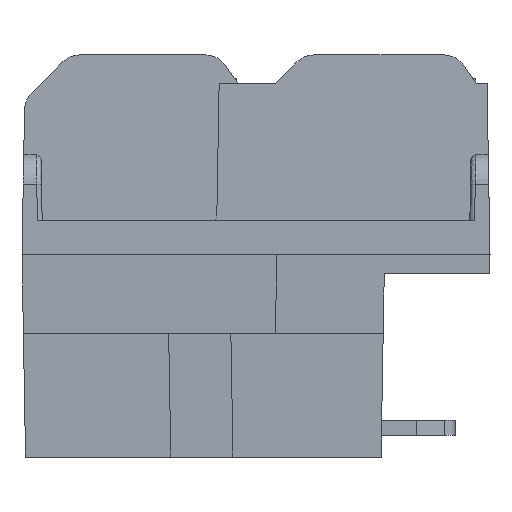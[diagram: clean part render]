
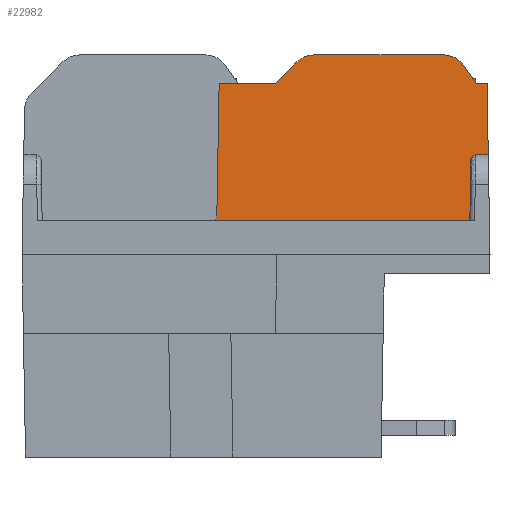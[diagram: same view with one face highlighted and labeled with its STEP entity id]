
A CAD part, left-side view. The second image highlights one B-rep face of the part: STEP entity #22982.
In plain terms, the highlighted planar face has unit normal (-1, 0, 0.018).
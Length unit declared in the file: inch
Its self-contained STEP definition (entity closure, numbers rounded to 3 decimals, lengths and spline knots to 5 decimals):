
#930=ELLIPSE('',#24409,0.01,0.01);
#937=ELLIPSE('',#24422,0.01,0.01);
#938=ELLIPSE('',#24423,0.05001,0.05);
#939=ELLIPSE('',#24424,0.05001,0.05);
#1362=FACE_OUTER_BOUND('',#2631,.T.);
#2631=EDGE_LOOP('',(#16469,#16470,#16471,#16472,#16473,#16474,#16475,#16476,
#16477,#16478,#16479,#16480,#16481,#16482));
#3748=LINE('',#31644,#6574);
#3845=LINE('',#31861,#6671);
#4369=LINE('',#32898,#7195);
#4590=LINE('',#33607,#7416);
#4601=LINE('',#33642,#7427);
#4602=LINE('',#33645,#7428);
#4603=LINE('',#33648,#7429);
#4604=LINE('',#33650,#7430);
#4605=LINE('',#33654,#7431);
#4606=LINE('',#33657,#7432);
#6574=VECTOR('',#25769,0.3937);
#6671=VECTOR('',#25896,0.3937);
#7195=VECTOR('',#26714,0.3937);
#7416=VECTOR('',#27081,0.3937);
#7427=VECTOR('',#27112,0.3937);
#7428=VECTOR('',#27115,0.3937);
#7429=VECTOR('',#27118,0.3937);
#7430=VECTOR('',#27119,0.3937);
#7431=VECTOR('',#27122,0.3937);
#7432=VECTOR('',#27125,0.3937);
#9394=VERTEX_POINT('',#31641);
#9395=VERTEX_POINT('',#31643);
#9487=VERTEX_POINT('',#31859);
#9852=VERTEX_POINT('',#32895);
#9853=VERTEX_POINT('',#32897);
#10025=VERTEX_POINT('',#33600);
#10026=VERTEX_POINT('',#33602);
#10027=VERTEX_POINT('',#33606);
#10042=VERTEX_POINT('',#33644);
#10043=VERTEX_POINT('',#33646);
#10044=VERTEX_POINT('',#33649);
#10045=VERTEX_POINT('',#33651);
#10046=VERTEX_POINT('',#33653);
#10047=VERTEX_POINT('',#33655);
#11616=EDGE_CURVE('',#9394,#9395,#3748,.T.);
#11718=EDGE_CURVE('',#9487,#9394,#3845,.T.);
#12244=EDGE_CURVE('',#9852,#9853,#4369,.T.);
#12501=EDGE_CURVE('',#10025,#10026,#930,.T.);
#12503=EDGE_CURVE('',#10027,#10025,#4590,.T.);
#12522=EDGE_CURVE('',#9852,#10026,#4601,.T.);
#12523=EDGE_CURVE('',#10042,#10027,#4602,.F.);
#12524=EDGE_CURVE('',#10043,#10042,#937,.F.);
#12525=EDGE_CURVE('',#9395,#10043,#4603,.F.);
#12526=EDGE_CURVE('',#10044,#9487,#4604,.T.);
#12527=EDGE_CURVE('',#10045,#10044,#938,.T.);
#12528=EDGE_CURVE('',#10046,#10045,#4605,.T.);
#12529=EDGE_CURVE('',#10047,#10046,#939,.T.);
#12530=EDGE_CURVE('',#9853,#10047,#4606,.T.);
#16469=ORIENTED_EDGE('',*,*,#12522,.T.);
#16470=ORIENTED_EDGE('',*,*,#12501,.F.);
#16471=ORIENTED_EDGE('',*,*,#12503,.F.);
#16472=ORIENTED_EDGE('',*,*,#12523,.F.);
#16473=ORIENTED_EDGE('',*,*,#12524,.F.);
#16474=ORIENTED_EDGE('',*,*,#12525,.F.);
#16475=ORIENTED_EDGE('',*,*,#11616,.F.);
#16476=ORIENTED_EDGE('',*,*,#11718,.F.);
#16477=ORIENTED_EDGE('',*,*,#12526,.F.);
#16478=ORIENTED_EDGE('',*,*,#12527,.F.);
#16479=ORIENTED_EDGE('',*,*,#12528,.F.);
#16480=ORIENTED_EDGE('',*,*,#12529,.F.);
#16481=ORIENTED_EDGE('',*,*,#12530,.F.);
#16482=ORIENTED_EDGE('',*,*,#12244,.F.);
#21997=PLANE('',#24421);
#22982=ADVANCED_FACE('',(#1362),#21997,.F.);
#24409=AXIS2_PLACEMENT_3D('',#33603,#27076,#27077);
#24421=AXIS2_PLACEMENT_3D('',#33643,#27113,#27114);
#24422=AXIS2_PLACEMENT_3D('',#33647,#27116,#27117);
#24423=AXIS2_PLACEMENT_3D('',#33652,#27120,#27121);
#24424=AXIS2_PLACEMENT_3D('',#33656,#27123,#27124);
#25769=DIRECTION('',(-0.017,-0.017,-1.));
#25896=DIRECTION('',(0.,-1.,0.));
#26714=DIRECTION('',(0.,-1.,0.));
#27076=DIRECTION('center_axis',(-1.,0.,0.017));
#27077=DIRECTION('ref_axis',(-0.017,0.,-1.));
#27081=DIRECTION('',(0.,1.,0.));
#27112=DIRECTION('',(-0.017,0.017,-1.));
#27113=DIRECTION('center_axis',(1.,0.,-0.017));
#27114=DIRECTION('ref_axis',(-0.017,0.,-1.));
#27115=DIRECTION('',(0.017,-0.017,1.));
#27116=DIRECTION('center_axis',(1.,0.,-0.017));
#27117=DIRECTION('ref_axis',(0.017,0.,1.));
#27118=DIRECTION('',(0.,-1.,0.));
#27119=DIRECTION('',(-0.014,-0.574,-0.819));
#27120=DIRECTION('center_axis',(1.,0.,-0.017));
#27121=DIRECTION('ref_axis',(0.017,0.,1.));
#27122=DIRECTION('',(0.,-1.,0.));
#27123=DIRECTION('center_axis',(1.,0.,-0.017));
#27124=DIRECTION('ref_axis',(0.017,0.,1.));
#27125=DIRECTION('',(0.012,-0.707,0.707));
#31641=CARTESIAN_POINT('',(0.46647,0.00698,0.4));
#31643=CARTESIAN_POINT('',(0.46386,0.00436,0.25));
#31644=CARTESIAN_POINT('',(0.46172,0.00223,0.12756));
#31859=CARTESIAN_POINT('',(0.46647,0.02896,0.4));
#31861=CARTESIAN_POINT('',(0.46647,0.26288,0.4));
#32895=CARTESIAN_POINT('',(0.46647,0.57,0.4));
#32897=CARTESIAN_POINT('',(0.46647,0.45171,0.4));
#32898=CARTESIAN_POINT('',(0.46647,0.51338,0.4));
#33600=CARTESIAN_POINT('',(0.46145,0.58485,0.112));
#33602=CARTESIAN_POINT('',(0.46162,0.57486,0.12183));
#33603=CARTESIAN_POINT('Origin',(0.46162,0.58485,0.122));
#33606=CARTESIAN_POINT('',(0.46145,0.04305,0.112));
#33607=CARTESIAN_POINT('',(0.46145,0.49465,0.112));
#33642=CARTESIAN_POINT('',(0.46171,0.57476,0.12727));
#33643=CARTESIAN_POINT('Origin',(0.46234,0.49681,0.16345));
#33644=CARTESIAN_POINT('',(0.46368,0.04081,0.24017));
#33645=CARTESIAN_POINT('',(0.46078,0.04371,0.07375));
#33646=CARTESIAN_POINT('',(0.46386,0.03081,0.25));
#33647=CARTESIAN_POINT('Origin',(0.46368,0.03081,0.24));
#33648=CARTESIAN_POINT('',(0.46386,0.25965,0.25));
#33649=CARTESIAN_POINT('',(0.46715,0.05604,0.43868));
#33650=CARTESIAN_POINT('',(0.46734,0.06384,0.44982));
#33651=CARTESIAN_POINT('',(0.46752,0.097,0.46));
#33652=CARTESIAN_POINT('Origin',(0.46665,0.097,0.41));
#33653=CARTESIAN_POINT('',(0.46752,0.371,0.46));
#33654=CARTESIAN_POINT('',(0.46752,0.4339,0.46));
#33655=CARTESIAN_POINT('',(0.46727,0.40636,0.44536));
#33656=CARTESIAN_POINT('Origin',(0.46665,0.371,0.41));
#33657=CARTESIAN_POINT('',(0.46524,0.52215,0.32956));
